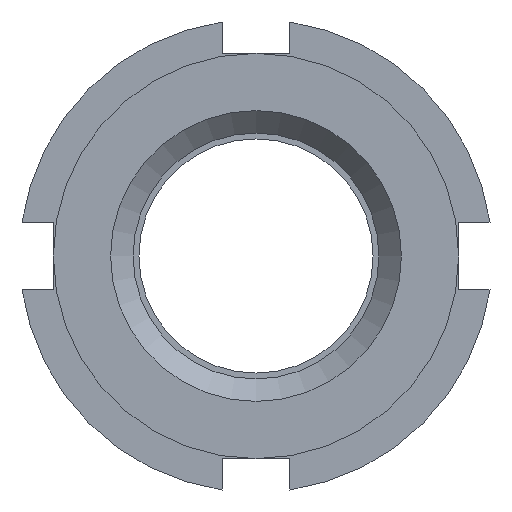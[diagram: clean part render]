
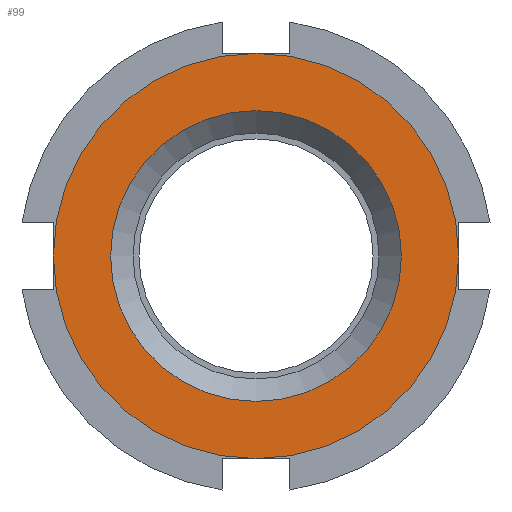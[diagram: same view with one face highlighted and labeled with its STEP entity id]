
A CAD part, left-side view. The second image highlights one B-rep face of the part: STEP entity #99.
In plain terms, the highlighted planar face has unit normal (-1, 0, 0).
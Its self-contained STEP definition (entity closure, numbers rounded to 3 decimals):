
#99 = ADVANCED_FACE( '', ( #167, #168 ), #169, .F. );
#167 = FACE_OUTER_BOUND( '', #245, .T. );
#168 = FACE_BOUND( '', #246, .T. );
#169 = PLANE( '', #247 );
#245 = EDGE_LOOP( '', ( #438 ) );
#246 = EDGE_LOOP( '', ( #439 ) );
#247 = AXIS2_PLACEMENT_3D( '', #440, #441, #442 );
#438 = ORIENTED_EDGE( '', *, *, #569, .F. );
#439 = ORIENTED_EDGE( '', *, *, #549, .T. );
#440 = CARTESIAN_POINT( '', ( 0., 0., 0. ) );
#441 = DIRECTION( '', ( 1., 0., 0. ) );
#442 = DIRECTION( '', ( 0., 0., -1. ) );
#549 = EDGE_CURVE( '', #654, #654, #655, .T. );
#569 = EDGE_CURVE( '', #682, #682, #683, .T. );
#654 = VERTEX_POINT( '', #833 );
#655 = CIRCLE( '', #834, 6.459 );
#682 = VERTEX_POINT( '', #869 );
#683 = CIRCLE( '', #870, 9. );
#833 = CARTESIAN_POINT( '', ( 0., 0., -6.459 ) );
#834 = AXIS2_PLACEMENT_3D( '', #956, #957, #958 );
#869 = CARTESIAN_POINT( '', ( 0., 0., -9. ) );
#870 = AXIS2_PLACEMENT_3D( '', #1003, #1004, #1005 );
#956 = CARTESIAN_POINT( '', ( 0., 0., 0. ) );
#957 = DIRECTION( '', ( 1., 0., 0. ) );
#958 = DIRECTION( '', ( 0., 0., -1. ) );
#1003 = CARTESIAN_POINT( '', ( 0., 0., 0. ) );
#1004 = DIRECTION( '', ( 1., 0., 0. ) );
#1005 = DIRECTION( '', ( 0., 0., -1. ) );
